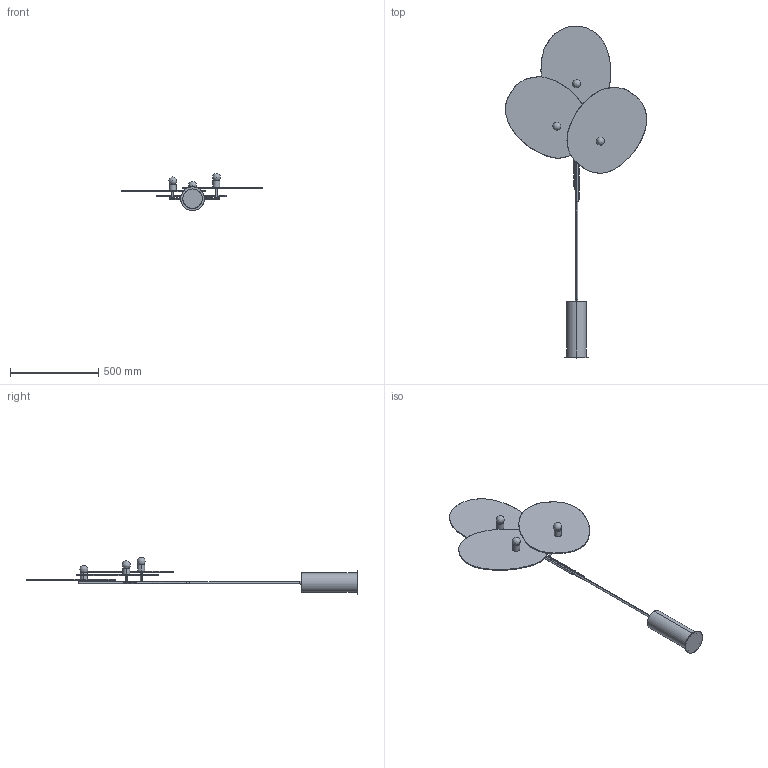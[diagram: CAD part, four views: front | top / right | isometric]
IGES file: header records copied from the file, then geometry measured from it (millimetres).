
Start section: SolidWorks IGES file using analytic representation for surfaces
Global section: file name: F:\燠隴矨\3D\2026-7\Triple Floral Floor Lamp.IGS,15; native system: HSolidWorks 2022; preprocessor: SolidWorks 2022; author: MyPC; date: 260718.111406; units: millimetre
Bounding box: 799.58 x 1879.9 x 211 mm (x, y, z)
Surface area: 1298241.8 mm2 (no closed solid volume)
Topology: 0 solids, 0 shells, 72 faces, 1930 edges, 1924 vertices
Faces by surface type: bspline 38, revolution 34
